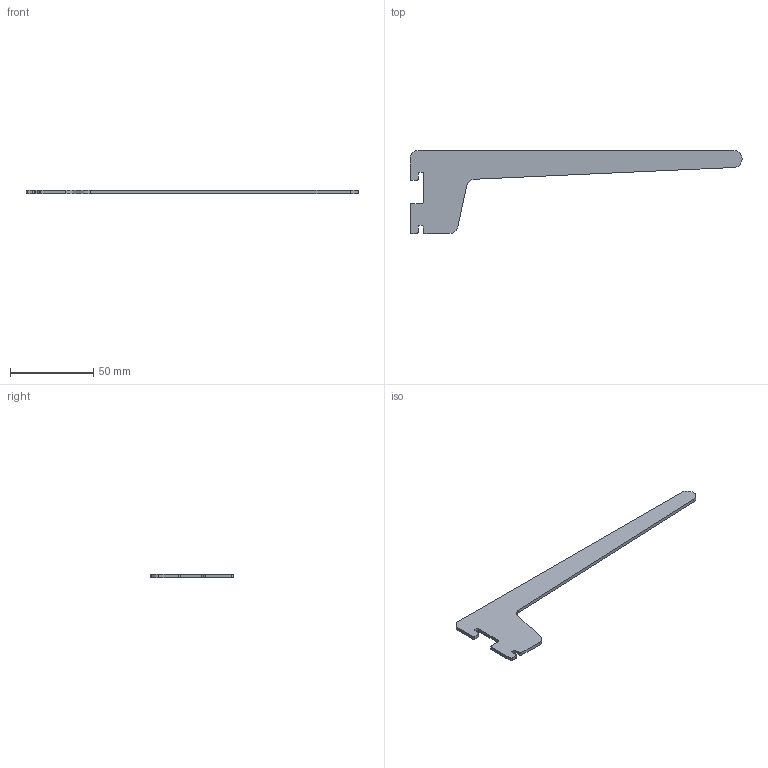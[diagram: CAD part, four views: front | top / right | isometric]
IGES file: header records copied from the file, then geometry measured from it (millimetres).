
Start section: 3D InterOp IGES (v. 2018 1.0.2), Spatial Corp. Copyright (c) 1999-2017.
Global section: file name: Console simple.igs; native system: Spatial Corp.; preprocessor: 3D InterOp GENERIC/IGES 3.0; author: Noname; organization: Noname; date: 20190430.084146; units: millimetre
Bounding box: 200 x 50 x 2 mm (x, y, z)
Surface area: 8511.9 mm2 (no closed solid volume)
Topology: 0 solids, 0 shells, 34 faces, 192 edges, 192 vertices
Faces by surface type: extrusion 18, revolution 16
